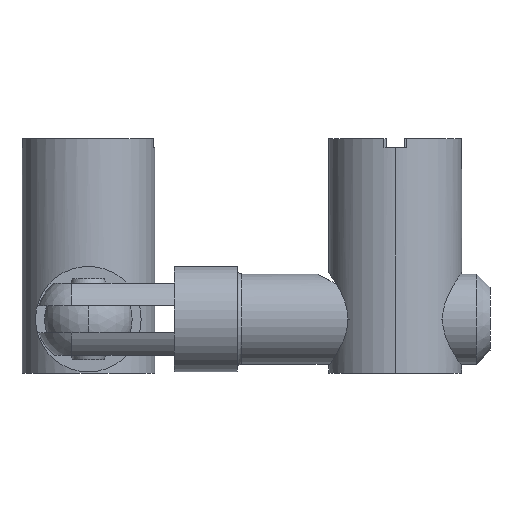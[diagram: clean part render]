
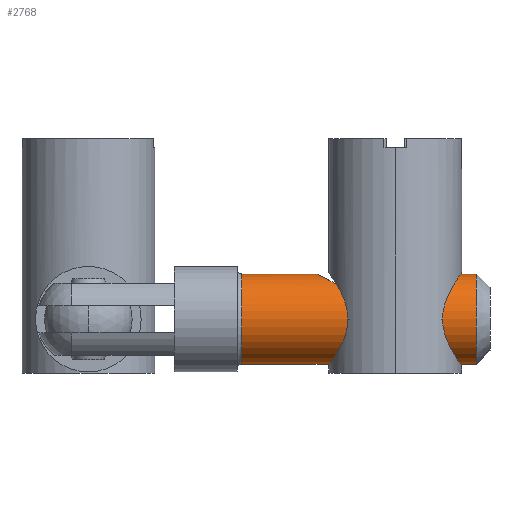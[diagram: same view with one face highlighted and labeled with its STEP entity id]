
A CAD part, left-side view. The second image highlights one B-rep face of the part: STEP entity #2768.
In plain terms, the highlighted cylindrical face has radius 5 mm (diameter 10 mm), a partial arc.
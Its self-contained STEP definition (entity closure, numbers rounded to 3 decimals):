
#3 = ORIENTED_EDGE ( 'NONE', *, *, #1708, .T. ) ;
#8 = CARTESIAN_POINT ( 'NONE',  ( 10.708, -2.971, 4.029 ) ) ;
#29 = CARTESIAN_POINT ( 'NONE',  ( 28., 0., -5. ) ) ;
#94 = AXIS2_PLACEMENT_3D ( 'NONE', #1319, #1825, #3346 ) ;
#165 = CARTESIAN_POINT ( 'NONE',  ( 0.5, 0., -5. ) ) ;
#210 = CARTESIAN_POINT ( 'NONE',  ( 12.601, -3.843, 3.203 ) ) ;
#224 = CARTESIAN_POINT ( 'NONE',  ( 20.295, -2.969, 4.031 ) ) ;
#274 = CARTESIAN_POINT ( 'NONE',  ( 16.253, -4.224, 2.676 ) ) ;
#298 = ORIENTED_EDGE ( 'NONE', *, *, #358, .F. ) ;
#313 = ORIENTED_EDGE ( 'NONE', *, *, #1457, .T. ) ;
#342 = DIRECTION ( 'NONE',  ( 0., 0., 1. ) ) ;
#358 = EDGE_CURVE ( 'NONE', #494, #1875, #1701, .T. ) ;
#381 = DIRECTION ( 'NONE',  ( -1., 0., 0. ) ) ;
#493 = ORIENTED_EDGE ( 'NONE', *, *, #1098, .T. ) ;
#494 = VERTEX_POINT ( 'NONE', #3182 ) ;
#513 = CARTESIAN_POINT ( 'NONE',  ( 19.381, -3.476, 3.601 ) ) ;
#519 = CARTESIAN_POINT ( 'NONE',  ( 19.06, -3.612, 3.462 ) ) ;
#524 = VERTEX_POINT ( 'NONE', #1947 ) ;
#637 = DIRECTION ( 'NONE',  ( 1., 0., 0. ) ) ;
#650 = CYLINDRICAL_SURFACE ( 'NONE', #2970, 5. ) ;
#825 = CARTESIAN_POINT ( 'NONE',  ( 20.707, -2.652, 4.241 ) ) ;
#833 = CARTESIAN_POINT ( 'NONE',  ( 28., 0., 0. ) ) ;
#836 = CARTESIAN_POINT ( 'NONE',  ( 12.946, -3.939, 3.082 ) ) ;
#873 = VECTOR ( 'NONE', #3614, 1000. ) ;
#895 = EDGE_CURVE ( 'NONE', #3588, #524, #2317, .T. ) ;
#960 = ORIENTED_EDGE ( 'NONE', *, *, #2031, .T. ) ;
#961 = ORIENTED_EDGE ( 'NONE', *, *, #895, .T. ) ;
#983 = CARTESIAN_POINT ( 'NONE',  ( 28., 0., 5. ) ) ;
#1048 = CIRCLE ( 'NONE', #1804, 5. ) ;
#1098 = EDGE_CURVE ( 'NONE', #3227, #1875, #1048, .T. ) ;
#1114 = CARTESIAN_POINT ( 'NONE',  ( 21.216, -2.164, 4.51 ) ) ;
#1125 = CARTESIAN_POINT ( 'NONE',  ( 14.015, -4.149, 2.791 ) ) ;
#1134 = CARTESIAN_POINT ( 'NONE',  ( 20.001, -3.153, 3.887 ) ) ;
#1145 = CARTESIAN_POINT ( 'NONE',  ( 14.567, -4.206, 2.704 ) ) ;
#1201 = CARTESIAN_POINT ( 'NONE',  ( 9.9, -2.306, 4.447 ) ) ;
#1298 = VERTEX_POINT ( 'NONE', #2235 ) ;
#1319 = CARTESIAN_POINT ( 'NONE',  ( 26.5, 0., 0. ) ) ;
#1341 = DIRECTION ( 'NONE',  ( 0., 0., 1. ) ) ;
#1412 = CARTESIAN_POINT ( 'NONE',  ( 21.545, -1.743, 4.689 ) ) ;
#1457 = EDGE_CURVE ( 'NONE', #494, #3588, #3400, .T. ) ;
#1463 = CARTESIAN_POINT ( 'NONE',  ( 8.9, 0., 5. ) ) ;
#1701 = LINE ( 'NONE', #29, #873 ) ;
#1708 = EDGE_CURVE ( 'NONE', #1298, #3227, #2350, .T. ) ;
#1727 = CARTESIAN_POINT ( 'NONE',  ( 13.655, -4.092, 2.876 ) ) ;
#1736 = CARTESIAN_POINT ( 'NONE',  ( 15.128, -4.239, 2.651 ) ) ;
#1752 = EDGE_LOOP ( 'NONE', ( #298, #313, #961, #960, #3, #493 ) ) ;
#1757 = CARTESIAN_POINT ( 'NONE',  ( 11.621, -3.477, 3.6 ) ) ;
#1771 = CARTESIAN_POINT ( 'NONE',  ( 0.5, 0., 5. ) ) ;
#1794 = CARTESIAN_POINT ( 'NONE',  ( 22.007, -0.747, 4.947 ) ) ;
#1804 = AXIS2_PLACEMENT_3D ( 'NONE', #2441, #637, #342 ) ;
#1825 = DIRECTION ( 'NONE',  ( -1., 0., 0. ) ) ;
#1861 = CARTESIAN_POINT ( 'NONE',  ( 10.156, -2.546, 4.311 ) ) ;
#1875 = VERTEX_POINT ( 'NONE', #165 ) ;
#1947 = CARTESIAN_POINT ( 'NONE',  ( 22.1, 0., 5. ) ) ;
#2031 = EDGE_CURVE ( 'NONE', #524, #1298, #3319, .T. ) ;
#2052 = CARTESIAN_POINT ( 'NONE',  ( 21.816, -1.268, 4.84 ) ) ;
#2091 = CARTESIAN_POINT ( 'NONE',  ( 15.882, -4.244, 2.644 ) ) ;
#2101 = CARTESIAN_POINT ( 'NONE',  ( 21.954, -0.925, 4.917 ) ) ;
#2151 = CARTESIAN_POINT ( 'NONE',  ( 26.5, 0., 5. ) ) ;
#2234 = CARTESIAN_POINT ( 'NONE',  ( 22.1, 0., 5. ) ) ;
#2235 = CARTESIAN_POINT ( 'NONE',  ( 8.9, 0., 5. ) ) ;
#2314 = CARTESIAN_POINT ( 'NONE',  ( 21.094, -2.295, 4.444 ) ) ;
#2317 = LINE ( 'NONE', #2501, #3124 ) ;
#2350 = LINE ( 'NONE', #983, #3852 ) ;
#2356 = CARTESIAN_POINT ( 'NONE',  ( 15.318, -4.244, 2.644 ) ) ;
#2372 = CARTESIAN_POINT ( 'NONE',  ( 16.989, -4.148, 2.792 ) ) ;
#2429 = CARTESIAN_POINT ( 'NONE',  ( 8.919, -0.379, 4.989 ) ) ;
#2441 = CARTESIAN_POINT ( 'NONE',  ( 0.5, 0., 0. ) ) ;
#2501 = CARTESIAN_POINT ( 'NONE',  ( 28., 0., 5. ) ) ;
#2625 = CARTESIAN_POINT ( 'NONE',  ( 18.4, -3.843, 3.203 ) ) ;
#2631 = CARTESIAN_POINT ( 'NONE',  ( 11.006, -3.157, 3.883 ) ) ;
#2645 = DIRECTION ( 'NONE',  ( -1., 0., 0. ) ) ;
#2686 = CARTESIAN_POINT ( 'NONE',  ( 9.253, -1.442, 4.801 ) ) ;
#2715 = CARTESIAN_POINT ( 'NONE',  ( 9.445, -1.75, 4.694 ) ) ;
#2768 = ADVANCED_FACE ( 'NONE', ( #3707 ), #650, .T. ) ;
#2822 = DIRECTION ( 'NONE',  ( -1., 0., 0. ) ) ;
#2961 = CARTESIAN_POINT ( 'NONE',  ( 8.9, -0.188, 5. ) ) ;
#2970 = AXIS2_PLACEMENT_3D ( 'NONE', #833, #2645, #1341 ) ;
#3124 = VECTOR ( 'NONE', #381, 1000. ) ;
#3182 = CARTESIAN_POINT ( 'NONE',  ( 26.5, 0., -5. ) ) ;
#3225 = CARTESIAN_POINT ( 'NONE',  ( 20.839, -2.538, 4.31 ) ) ;
#3227 = VERTEX_POINT ( 'NONE', #1771 ) ;
#3233 = CARTESIAN_POINT ( 'NONE',  ( 14.753, -4.22, 2.682 ) ) ;
#3261 = CARTESIAN_POINT ( 'NONE',  ( 22.081, -0.376, 4.989 ) ) ;
#3299 = CARTESIAN_POINT ( 'NONE',  ( 8.993, -0.746, 4.947 ) ) ;
#3319 = B_SPLINE_CURVE_WITH_KNOTS ( 'NONE', 3,
 ( #2234, #3866, #3261, #1794, #2101, #2052, #3544, #1412, #3519, #1114, #2314, #3225, #825, #224, #1134, #513, #519, #2625, #3886, #3869, #2372, #274, #2091, #2356, #1736, #3233, #1145, #1125, #1727, #836, #210, #3832, #1757, #2631, #8, #1861, #1201, #2715, #2686, #3620, #3299, #2429, #2961, #1463 ),
 .UNSPECIFIED., .F., .F.,
 ( 4, 2, 2, 2, 2, 2, 2, 2, 2, 2, 2, 2, 2, 2, 2, 2, 2, 2, 2, 2, 2, 4 ),
 ( 0.02, 0.021, 0.021, 0.022, 0.023, 0.023, 0.024, 0.025, 0.026, 0.027, 0.028, 0.029, 0.03, 0.03, 0.032, 0.033, 0.034, 0.035, 0.036, 0.037, 0.038, 0.038 ),
 .UNSPECIFIED. ) ;
#3346 = DIRECTION ( 'NONE',  ( 0., 0., -1. ) ) ;
#3400 = CIRCLE ( 'NONE', #94, 5. ) ;
#3519 = CARTESIAN_POINT ( 'NONE',  ( 21.441, -1.889, 4.632 ) ) ;
#3544 = CARTESIAN_POINT ( 'NONE',  ( 21.732, -1.434, 4.793 ) ) ;
#3588 = VERTEX_POINT ( 'NONE', #2151 ) ;
#3614 = DIRECTION ( 'NONE',  ( -1., 0., 0. ) ) ;
#3620 = CARTESIAN_POINT ( 'NONE',  ( 9.046, -0.924, 4.917 ) ) ;
#3707 = FACE_OUTER_BOUND ( 'NONE', #1752, .T. ) ;
#3832 = CARTESIAN_POINT ( 'NONE',  ( 11.94, -3.612, 3.461 ) ) ;
#3852 = VECTOR ( 'NONE', #2822, 1000. ) ;
#3866 = CARTESIAN_POINT ( 'NONE',  ( 22.1, -0.188, 5. ) ) ;
#3869 = CARTESIAN_POINT ( 'NONE',  ( 17.356, -4.09, 2.878 ) ) ;
#3886 = CARTESIAN_POINT ( 'NONE',  ( 18.06, -3.938, 3.084 ) ) ;
